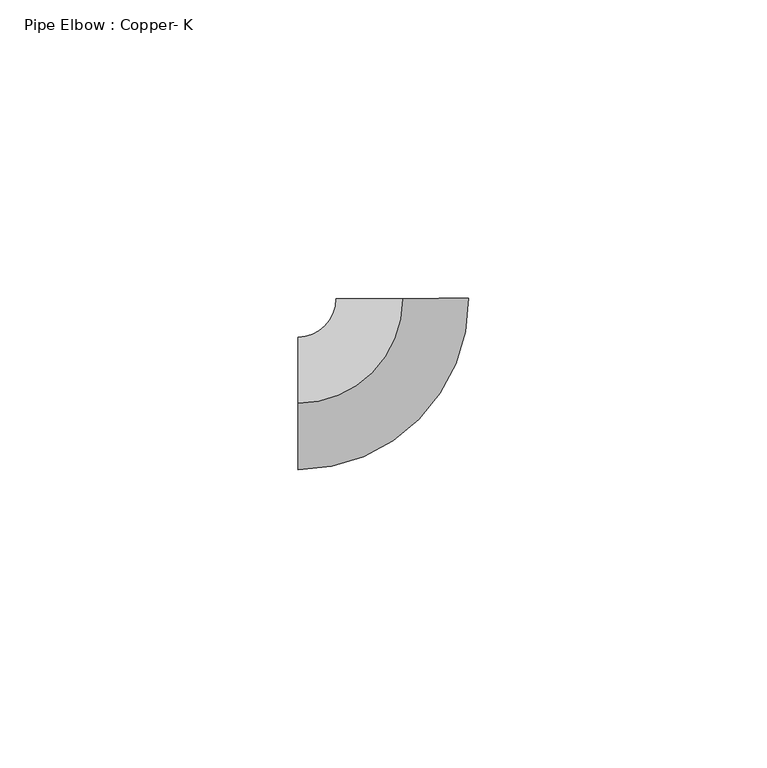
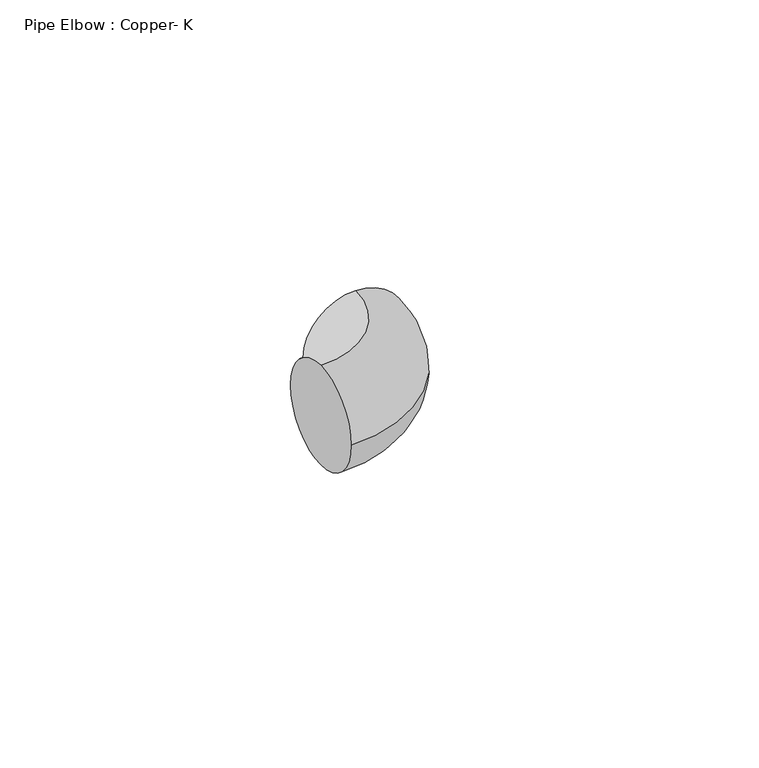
"""IFC4 building model written with IfcOpenShell, lengths in millimetres: pipe fitting geometry, Pipe Elbow : Copper- K."""

import ifcopenshell
import ifcopenshell.guid

model = None  # the IFC model being written
_history = None  # IfcOwnerHistory: only IFC2X3 demands one
_inside = {}  # id of a spatial element -> (the spatial element, [elements in it])
_under = {}  # id of a project, library or spatial element -> (it, [spatial elements below it])
_declared = {}  # id of a project -> (the project, [libraries it declares])
_typed = {}  # id of a type object -> (the type object, [elements of that type])
_made_of = {}  # id of a material, layer set ... -> (it, [elements and type objects made of it])


def new_model(schema):
    """Start an empty IFC model of exactly this schema.

    Asked for "IFC4X3", IfcOpenShell would pick the latest addendum, in which some entities
    have other attributes; the version numbers below select the first issue.
    IFC2X3 requires an IfcOwnerHistory on every rooted entity: one is made here for all.
    """
    global model, _history
    if schema == "IFC4X3":
        model = ifcopenshell.file(schema_version=(4, 3, 0, 0))
    else:
        model = ifcopenshell.file(schema=schema)
    _inside.clear()
    _under.clear()
    _declared.clear()
    _typed.clear()
    _made_of.clear()
    _history = None
    if model.schema == "IFC2X3":
        org = make("IfcOrganization", Name="unknown")
        user = make(
            "IfcPersonAndOrganization",
            ThePerson=make("IfcPerson", FamilyName="unknown"),
            TheOrganization=org,
        )
        app = make(
            "IfcApplication",
            ApplicationDeveloper=org,
            Version="unknown",
            ApplicationFullName="unknown",
            ApplicationIdentifier="unknown",
        )
        _history = make(
            "IfcOwnerHistory",
            OwningUser=user,
            OwningApplication=app,
            ChangeAction="ADDED",
            CreationDate=0,
        )
    return model


def make(cls, **values):
    """One entity of the class cls with the attributes given. An attribute that is None is left unset."""
    return model.create_entity(
        cls, **{name: value for name, value in values.items() if value is not None}
    )


def rooted(cls, **values):
    """An entity with a GlobalId (a new one), such as an element, a storey or a relation."""
    return make(cls, GlobalId=ifcopenshell.guid.new(), OwnerHistory=_history, **values)


def si_unit(unit_type, name, prefix=None):
    """IfcSIUnit, for example si_unit("LENGTHUNIT", "METRE", prefix="MILLI")."""
    return make("IfcSIUnit", UnitType=unit_type, Prefix=prefix, Name=name)


def assignment(units):
    """IfcUnitAssignment: the units of a project."""
    return None if units is None else make("IfcUnitAssignment", Units=units)


def point(xyz):
    """IfcCartesianPoint."""
    return None if xyz is None else make("IfcCartesianPoint", Coordinates=xyz)


def direction(xyz):
    """IfcDirection."""
    return None if xyz is None else make("IfcDirection", DirectionRatios=xyz)


def frame(location, z_axis=None, x_axis=None):
    """IfcAxis2Placement3D, a coordinate frame: its origin and axes. An axis left out is left unset."""
    return make(
        "IfcAxis2Placement3D",
        Location=point(location),
        Axis=direction(z_axis),
        RefDirection=direction(x_axis),
    )


def origin():
    """The frame at (0, 0, 0) with its axes left unset."""
    return frame((0.0, 0.0, 0.0))


def place(relative_to, where):
    """IfcLocalPlacement: puts the frame where relative to a parent placement (None: the world)."""
    return make(
        "IfcLocalPlacement", PlacementRelTo=relative_to, RelativePlacement=where
    )


def context(
    kind, dimensions, precision=None, world=None, true_north=None, identifier=None
):
    """IfcGeometricRepresentationContext, for example the 3D "Model" context."""
    return make(
        "IfcGeometricRepresentationContext",
        ContextIdentifier=identifier,
        ContextType=kind,
        CoordinateSpaceDimension=dimensions,
        Precision=precision,
        WorldCoordinateSystem=world,
        TrueNorth=true_north,
    )


def project(units=None, contexts=None):
    """IfcProject with its units and contexts."""
    return rooted(
        "IfcProject",
        Name="project",
        RepresentationContexts=contexts,
        UnitsInContext=assignment(units),
    )


def spatial(cls, under=None, at=None, **own):
    """A site, building, storey or space (cls), placed at a placement, below another one or the project."""
    s = rooted(cls, ObjectPlacement=at, **own)
    if under is not None:
        _under.setdefault(under.id(), (under, []))[1].append(s)
    return s


def circle_curve(where, radius):
    """IfcCircle in the frame where."""
    return make("IfcCircle", Position=where, Radius=radius)


def ellipse_curve(where, semi_axis1, semi_axis2):
    """IfcEllipse in the frame where."""
    return make(
        "IfcEllipse", Position=where, SemiAxis1=semi_axis1, SemiAxis2=semi_axis2
    )


def trimmed(basis, trim1, trim2, sense, master):
    """IfcTrimmedCurve: the piece of a basis curve between two trims."""
    return make(
        "IfcTrimmedCurve",
        BasisCurve=basis,
        Trim1=trim1,
        Trim2=trim2,
        SenseAgreement=sense,
        MasterRepresentation=master,
    )


def shape(context_of_items, identifier, shape_type, items):
    """IfcShapeRepresentation: the items that make up one representation, for example the "Body"."""
    return make(
        "IfcShapeRepresentation",
        ContextOfItems=context_of_items,
        RepresentationIdentifier=identifier,
        RepresentationType=shape_type,
        Items=items,
    )


def source(mapping_origin, context_of_items, identifier, shape_type, items):
    """IfcRepresentationMap: a shape defined once, which mapped items show again and again."""
    return make(
        "IfcRepresentationMap",
        MappingOrigin=mapping_origin,
        MappedRepresentation=shape(context_of_items, identifier, shape_type, items),
    )


def transform(
    local_origin,
    x_axis=None,
    y_axis=None,
    z_axis=None,
    scale=None,
    scale2=None,
    scale3=None,
    uniform=True,
):
    """IfcCartesianTransformationOperator3D, or its non-uniform kind. x_axis, y_axis, z_axis: its Axis1, 2, 3."""
    if uniform:
        return make(
            "IfcCartesianTransformationOperator3D",
            Axis1=direction(x_axis),
            Axis2=direction(y_axis),
            LocalOrigin=point(local_origin),
            Scale=scale,
            Axis3=direction(z_axis),
        )
    return make(
        "IfcCartesianTransformationOperator3DnonUniform",
        Axis1=direction(x_axis),
        Axis2=direction(y_axis),
        LocalOrigin=point(local_origin),
        Scale=scale,
        Axis3=direction(z_axis),
        Scale2=scale2,
        Scale3=scale3,
    )


def mapped(mapping_source, mapping_target):
    """IfcMappedItem: shows the shape of a source again, moved by a transform."""
    return make(
        "IfcMappedItem", MappingSource=mapping_source, MappingTarget=mapping_target
    )


def made_of(thing, what):
    """Note that an element or type object is made of a material, layer set ...; save() writes the relation."""
    if what is not None:
        _made_of.setdefault(what.id(), (what, []))[1].append(thing)
    return thing


def element(
    cls,
    number,
    at=None,
    inside=None,
    cuts=None,
    type_object=None,
    material=None,
    context=None,
    identifier="Body",
    shape_type=None,
    held_by="IfcProductDefinitionShape",
    body=None,
    shapes=None,
    **own,
):
    """One element of the class cls, such as IfcWall. Its Tag is "e" and its number.

    at: its placement. inside: the storey or other place that contains it. cuts: it is an
    opening in that element (IfcRelVoidsElement). A single representation is given by context,
    identifier, shape_type and body (its items); several are given by shapes. held_by: the class
    of the entity that holds the representations. save() writes the other relations.
    """
    e = rooted(cls, Tag="e%d" % number, ObjectPlacement=at, **own)
    if body is not None:
        shapes = [shape(context, identifier, shape_type, body)]
    if shapes is not None:
        e.Representation = make(held_by, Representations=shapes)
    if inside is not None:
        _inside.setdefault(inside.id(), (inside, []))[1].append(e)
    if cuts is not None:
        rooted(
            "IfcRelVoidsElement", RelatingBuildingElement=cuts, RelatedOpeningElement=e
        )
    if type_object is not None:
        _typed.setdefault(type_object.id(), (type_object, []))[1].append(e)
    return made_of(e, material)


def aggregate(whole, parts):
    """IfcRelAggregates: a whole, such as a stair, and the parts it consists of."""
    return rooted("IfcRelAggregates", RelatingObject=whole, RelatedObjects=parts)


def save(model, path):
    """Write the relations noted so far, then the file.

    IfcRelAggregates (storeys below a building ...), IfcRelContainedInSpatialStructure (elements
    in a storey), IfcRelDefinesByType, IfcRelAssociatesMaterial and IfcRelDeclares: one each for
    every whole, place, type object, material and project.
    """
    for whole, parts in _under.values():
        aggregate(whole, parts)
    for where, things in _inside.values():
        rooted(
            "IfcRelContainedInSpatialStructure",
            RelatedElements=things,
            RelatingStructure=where,
        )
    for kind, things in _typed.values():
        rooted("IfcRelDefinesByType", RelatedObjects=things, RelatingType=kind)
    for what, things in _made_of.values():
        rooted("IfcRelAssociatesMaterial", RelatedObjects=things, RelatingMaterial=what)
    for by, libraries in _declared.values():
        rooted("IfcRelDeclares", RelatingContext=by, RelatedDefinitions=libraries)
    model.write(path)


def plane_surface(at):
    """IfcPlane: the flat surface through the origin of the frame at, square to its z axis."""
    return make("IfcPlane", Position=at)


def revolved_surface(curve, axis_point, axis_direction):
    """IfcSurfaceOfRevolution: the curve turned about the line through axis_point along axis_direction."""
    return make(
        "IfcSurfaceOfRevolution",
        SweptCurve=make("IfcArbitraryOpenProfileDef", ProfileType="CURVE", Curve=curve),
        AxisPosition=make("IfcAxis1Placement", Location=point(axis_point), Axis=direction(axis_direction)),
    )


def advanced_brep(points, edges, surfaces, faces):
    """IfcAdvancedBrep: a solid bounded by faces that lie on surfaces and meet in shared edges.

    An edge is (start, end): straight between two places in points (the first is 0);
    or (start, end, curve); or (start, end, curve, False) where it runs against its curve.
    A face is (place in surfaces, loops), or (place, loops, False) where it looks against
    its surface's normal. A loop lists edges by number (the first is 1), with a minus sign
    where the edge is run from its end to its start. The first loop is the outer one.
    """
    corners = [point(p) for p in points]
    vertices = [make("IfcVertexPoint", VertexGeometry=c) for c in corners]
    made = []
    for start, end, *more in edges:
        made.append(
            make(
                "IfcEdgeCurve",
                EdgeStart=vertices[start],
                EdgeEnd=vertices[end],
                EdgeGeometry=more[0] if more else make("IfcPolyline", Points=[corners[start], corners[end]]),
                SameSense=more[1] if len(more) > 1 else True,
            )
        )
    hull = []
    for where, loops, *sense in faces:
        bounds = []
        for j, loop in enumerate(loops):
            ring = [make("IfcOrientedEdge", EdgeElement=made[abs(k) - 1], Orientation=k > 0) for k in loop]
            bounds.append(
                make(
                    "IfcFaceOuterBound" if j == 0 else "IfcFaceBound",
                    Bound=make("IfcEdgeLoop", EdgeList=ring),
                    Orientation=True,
                )
            )
        hull.append(make("IfcAdvancedFace", Bounds=bounds, FaceSurface=surfaces[where], SameSense=sense[0] if sense else True))
    return make("IfcAdvancedBrep", Outer=make("IfcClosedShell", CfsFaces=hull))


def pipe_elbow_copper_k_fb99da9a(model_context):
    return source(origin(), model_context, "Body", "AdvancedBrep", [
        advanced_brep(
        [(-17.5486332, 0.0, 11.1125), (-17.5486332, 11.1125, 0.0), (-17.5486332, 0.0, -11.1125), (-17.5486332, -11.1125, 0.0), (-0.0863446, 17.5484208, 11.1125), (11.0260209, 17.6030976, 0.0), (-0.0863446, 17.5484208, -11.1125), (-11.1987101, 17.4937439, 0.0)],
        [
            (0, 1, circle_curve(frame((-17.5486332, 0.0, 0.0), z_axis=(-1.0, 0.0, 0.0), x_axis=(0.0, 1.0, 0.0)), 11.1125)),
            (1, 2, circle_curve(frame((-17.5486332, 0.0, 0.0), z_axis=(-1.0, 0.0, 0.0), x_axis=(0.0, 1.0, 0.0)), 11.1125)),
            (2, 3, circle_curve(frame((-17.5486332, 0.0, 0.0), z_axis=(-1.0, 0.0, 0.0), x_axis=(0.0, 1.0, 0.0)), 11.1125)),
            (3, 0, circle_curve(frame((-17.5486332, 0.0, 0.0), z_axis=(-1.0, 0.0, 0.0), x_axis=(0.0, 1.0, 0.0)), 11.1125)),
            (4, 5, circle_curve(frame((-0.0863446, 17.5484208, 0.0), z_axis=(-0.004920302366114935, 0.9999878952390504, 0.0), x_axis=(-0.9999878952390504, -0.004920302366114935, 0.0)), 11.1125)),
            (5, 6, circle_curve(frame((-0.0863446, 17.5484208, 0.0), z_axis=(-0.004920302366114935, 0.9999878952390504, 0.0), x_axis=(-0.9999878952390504, -0.004920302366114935, 0.0)), 11.1125)),
            (6, 7, circle_curve(frame((-0.0863446, 17.5484208, 0.0), z_axis=(-0.004920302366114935, 0.9999878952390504, 0.0), x_axis=(-0.9999878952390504, -0.004920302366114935, 0.0)), 11.1125)),
            (7, 4, circle_curve(frame((-0.0863446, 17.5484208, 0.0), z_axis=(-0.004920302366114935, 0.9999878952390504, 0.0), x_axis=(-0.9999878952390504, -0.004920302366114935, 0.0)), 11.1125)),
            (7, 1, circle_curve(frame((-17.5486332, 17.4625, 0.0), z_axis=(0.0, 0.0, -1.0), x_axis=(0.0, -1.0, 0.0)), 6.35)),
            (0, 4, circle_curve(frame((-17.5486332, 17.4625, 11.1125), z_axis=(0.0, 0.0, 1.0), x_axis=(0.0, -1.0, 0.0)), 17.4625)),
            (6, 2, circle_curve(frame((-17.5486332, 17.4625, -11.1125), z_axis=(0.0, 0.0, -1.0), x_axis=(0.0, -1.0, 0.0)), 17.4625)),
            (5, 3, circle_curve(frame((-17.5486332, 17.4625, 0.0), z_axis=(0.0, 0.0, -1.0), x_axis=(0.0, -1.0, 0.0)), 28.575)),
        ],
        [
            plane_surface(frame((-17.5486332, 0.0, 0.0), z_axis=(-1.0, 0.0, 0.0), x_axis=(0.0, 0.0, 1.0))),
            plane_surface(frame((-0.0863446, 17.5484208, 0.0), z_axis=(-0.004920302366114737, 0.9999878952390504, 0.0), x_axis=(0.0, 0.0, 1.0))),
            revolved_surface(trimmed(ellipse_curve(frame((-17.5486332, 0.0, 0.0), z_axis=(-1.0, 0.0, 0.0), x_axis=(0.0, 1.0, 0.0)), 11.1125, 11.1125), [point((-17.5486332, 0.0, 11.1125))], [point((-17.5486332, 11.1125, 0.0))], True, "CARTESIAN"), (-17.5486332, 17.4625, 0.0), (0.0, 0.0, 1.0)),
            revolved_surface(trimmed(ellipse_curve(frame((-17.5486332, 0.0, 0.0), z_axis=(-1.0, 0.0, 0.0), x_axis=(0.0, 1.0, 0.0)), 11.1125, 11.1125), [point((-17.5486332, 11.1125, 0.0))], [point((-17.5486332, 0.0, -11.1125))], True, "CARTESIAN"), (-17.5486332, 17.4625, 0.0), (0.0, 0.0, 1.0)),
            revolved_surface(trimmed(ellipse_curve(frame((-17.5486332, 0.0, 0.0), z_axis=(-1.0, 0.0, 0.0), x_axis=(0.0, 1.0, 0.0)), 11.1125, 11.1125), [point((-17.5486332, 0.0, -11.1125))], [point((-17.5486332, -11.1125, 0.0))], True, "CARTESIAN"), (-17.5486332, 17.4625, 0.0), (0.0, 0.0, 1.0)),
            revolved_surface(trimmed(ellipse_curve(frame((-17.5486332, 0.0, 0.0), z_axis=(-1.0, 0.0, 0.0), x_axis=(0.0, 1.0, 0.0)), 11.1125, 11.1125), [point((-17.5486332, -11.1125, 0.0))], [point((-17.5486332, 0.0, 11.1125))], True, "CARTESIAN"), (-17.5486332, 17.4625, 0.0), (0.0, 0.0, 1.0)),
        ],
        [
            (0, [[1, 2, 3, 4]]),
            (1, [[5, 6, 7, 8]]),
            (2, [[9, -1, 10, -8]]),
            (3, [[11, -2, -9, -7]]),
            (4, [[12, -3, -11, -6]]),
            (5, [[-10, -4, -12, -5]]),
        ],
    ),
        advanced_brep(
        [(-17.5486332, 0.0, 11.1125), (-17.5486332, 11.1125, 0.0), (-17.5486332, 0.0, -11.1125), (-17.5486332, -11.1125, 0.0), (-0.0863446, 17.5484208, 11.1125), (11.0260209, 17.6030976, 0.0), (-0.0863446, 17.5484208, -11.1125), (-11.1987101, 17.4937439, 0.0)],
        [
            (0, 1, circle_curve(frame((-17.5486332, 0.0, 0.0), z_axis=(-1.0, 0.0, 0.0), x_axis=(0.0, 1.0, 0.0)), 11.1125)),
            (1, 2, circle_curve(frame((-17.5486332, 0.0, 0.0), z_axis=(-1.0, 0.0, 0.0), x_axis=(0.0, 1.0, 0.0)), 11.1125)),
            (2, 3, circle_curve(frame((-17.5486332, 0.0, 0.0), z_axis=(-1.0, 0.0, 0.0), x_axis=(0.0, 1.0, 0.0)), 11.1125)),
            (3, 0, circle_curve(frame((-17.5486332, 0.0, 0.0), z_axis=(-1.0, 0.0, 0.0), x_axis=(0.0, 1.0, 0.0)), 11.1125)),
            (4, 5, circle_curve(frame((-0.0863446, 17.5484208, 0.0), z_axis=(-0.004920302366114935, 0.9999878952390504, 0.0), x_axis=(-0.9999878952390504, -0.004920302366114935, 0.0)), 11.1125)),
            (5, 6, circle_curve(frame((-0.0863446, 17.5484208, 0.0), z_axis=(-0.004920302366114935, 0.9999878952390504, 0.0), x_axis=(-0.9999878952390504, -0.004920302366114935, 0.0)), 11.1125)),
            (6, 7, circle_curve(frame((-0.0863446, 17.5484208, 0.0), z_axis=(-0.004920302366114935, 0.9999878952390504, 0.0), x_axis=(-0.9999878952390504, -0.004920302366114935, 0.0)), 11.1125)),
            (7, 4, circle_curve(frame((-0.0863446, 17.5484208, 0.0), z_axis=(-0.004920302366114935, 0.9999878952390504, 0.0), x_axis=(-0.9999878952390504, -0.004920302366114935, 0.0)), 11.1125)),
            (7, 1, circle_curve(frame((-17.5486332, 17.4625, 0.0), z_axis=(0.0, 0.0, -1.0), x_axis=(0.0, -1.0, 0.0)), 6.35)),
            (0, 4, circle_curve(frame((-17.5486332, 17.4625, 11.1125), z_axis=(0.0, 0.0, 1.0), x_axis=(0.0, -1.0, 0.0)), 17.4625)),
            (6, 2, circle_curve(frame((-17.5486332, 17.4625, -11.1125), z_axis=(0.0, 0.0, -1.0), x_axis=(0.0, -1.0, 0.0)), 17.4625)),
            (5, 3, circle_curve(frame((-17.5486332, 17.4625, 0.0), z_axis=(0.0, 0.0, -1.0), x_axis=(0.0, -1.0, 0.0)), 28.575)),
        ],
        [
            plane_surface(frame((-17.5486332, 0.0, 0.0), z_axis=(-1.0, 0.0, 0.0), x_axis=(0.0, 0.0, 1.0))),
            plane_surface(frame((-0.0863446, 17.5484208, 0.0), z_axis=(-0.004920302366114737, 0.9999878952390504, 0.0), x_axis=(0.0, 0.0, 1.0))),
            revolved_surface(trimmed(ellipse_curve(frame((-17.5486332, 0.0, 0.0), z_axis=(-1.0, 0.0, 0.0), x_axis=(0.0, 1.0, 0.0)), 11.1125, 11.1125), [point((-17.5486332, 0.0, 11.1125))], [point((-17.5486332, 11.1125, 0.0))], True, "CARTESIAN"), (-17.5486332, 17.4625, 0.0), (0.0, 0.0, 1.0)),
            revolved_surface(trimmed(ellipse_curve(frame((-17.5486332, 0.0, 0.0), z_axis=(-1.0, 0.0, 0.0), x_axis=(0.0, 1.0, 0.0)), 11.1125, 11.1125), [point((-17.5486332, 11.1125, 0.0))], [point((-17.5486332, 0.0, -11.1125))], True, "CARTESIAN"), (-17.5486332, 17.4625, 0.0), (0.0, 0.0, 1.0)),
            revolved_surface(trimmed(ellipse_curve(frame((-17.5486332, 0.0, 0.0), z_axis=(-1.0, 0.0, 0.0), x_axis=(0.0, 1.0, 0.0)), 11.1125, 11.1125), [point((-17.5486332, 0.0, -11.1125))], [point((-17.5486332, -11.1125, 0.0))], True, "CARTESIAN"), (-17.5486332, 17.4625, 0.0), (0.0, 0.0, 1.0)),
            revolved_surface(trimmed(ellipse_curve(frame((-17.5486332, 0.0, 0.0), z_axis=(-1.0, 0.0, 0.0), x_axis=(0.0, 1.0, 0.0)), 11.1125, 11.1125), [point((-17.5486332, -11.1125, 0.0))], [point((-17.5486332, 0.0, 11.1125))], True, "CARTESIAN"), (-17.5486332, 17.4625, 0.0), (0.0, 0.0, 1.0)),
        ],
        [
            (0, [[1, 2, 3, 4]]),
            (1, [[5, 6, 7, 8]]),
            (2, [[9, -1, 10, -8]]),
            (3, [[11, -2, -9, -7]]),
            (4, [[12, -3, -11, -6]]),
            (5, [[-10, -4, -12, -5]]),
        ],
    ),
    ])


if __name__ == "__main__":
    model = new_model("IFC4")
    model_context = context("Model", 3, world=origin())
    ifc_project = project(units=[si_unit("LENGTHUNIT", "METRE", prefix="MILLI")], contexts=[model_context])
    site = spatial("IfcSite", under=ifc_project)
    building = spatial("IfcBuilding", under=site)
    placement = place(None, origin())
    pipe_elbow_copper_k_shape = pipe_elbow_copper_k_fb99da9a(model_context)
    element("IfcPipeFitting", 1, ObjectType="Pipe Elbow : Copper- K", at=placement, inside=building, context=model_context, shape_type="MappedRepresentation", body=[
        mapped(pipe_elbow_copper_k_shape, transform((0.0, 0.0, 0.0), x_axis=(1.0, 0.0, 0.0), y_axis=(0.0, 1.0, 0.0), z_axis=(0.0, 0.0, 1.0))),
    ])
    save(model, "model.ifc")
